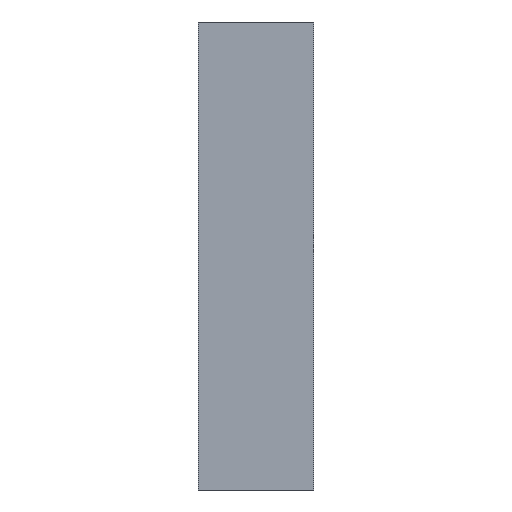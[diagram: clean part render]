
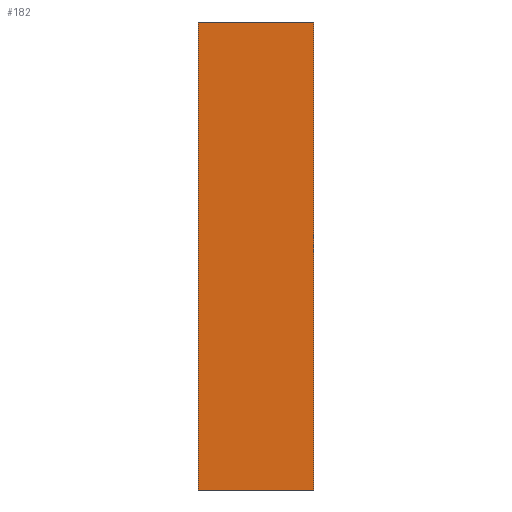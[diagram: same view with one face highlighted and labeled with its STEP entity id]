
A CAD part, front view. The second image highlights one B-rep face of the part: STEP entity #182.
In plain terms, the highlighted planar face has unit normal (0, -1, 0).
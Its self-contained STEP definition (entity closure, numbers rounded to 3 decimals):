
#7 = ORIENTED_EDGE ( 'NONE', *, *, #100, .F. ) ;
#8 = EDGE_CURVE ( 'NONE', #82, #162, #41, .T. ) ;
#12 = DIRECTION ( 'NONE',  ( 1., 0., 0. ) ) ;
#39 = EDGE_LOOP ( 'NONE', ( #132, #66, #192, #7 ) ) ;
#41 = LINE ( 'NONE', #196, #81 ) ;
#42 = CARTESIAN_POINT ( 'NONE',  ( 0., 0., 0. ) ) ;
#43 = CARTESIAN_POINT ( 'NONE',  ( 0., 0., -121. ) ) ;
#55 = LINE ( 'NONE', #164, #160 ) ;
#61 = CARTESIAN_POINT ( 'NONE',  ( 29.8, 0., -121. ) ) ;
#66 = ORIENTED_EDGE ( 'NONE', *, *, #157, .F. ) ;
#72 = CARTESIAN_POINT ( 'NONE',  ( 29.8, 0., 0. ) ) ;
#79 = CARTESIAN_POINT ( 'NONE',  ( 0., 0., -121. ) ) ;
#81 = VECTOR ( 'NONE', #104, 1000. ) ;
#82 = VERTEX_POINT ( 'NONE', #72 ) ;
#84 = VERTEX_POINT ( 'NONE', #150 ) ;
#96 = EDGE_CURVE ( 'NONE', #84, #149, #55, .T. ) ;
#99 = CARTESIAN_POINT ( 'NONE',  ( 0., 0., 0. ) ) ;
#100 = EDGE_CURVE ( 'NONE', #149, #82, #116, .T. ) ;
#104 = DIRECTION ( 'NONE',  ( 0., 0., -1. ) ) ;
#105 = DIRECTION ( 'NONE',  ( 0., -1., 0. ) ) ;
#116 = LINE ( 'NONE', #99, #127 ) ;
#127 = VECTOR ( 'NONE', #12, 1000. ) ;
#132 = ORIENTED_EDGE ( 'NONE', *, *, #96, .F. ) ;
#140 = PLANE ( 'NONE',  #175 ) ;
#149 = VERTEX_POINT ( 'NONE', #42 ) ;
#150 = CARTESIAN_POINT ( 'NONE',  ( 0., 0., -121. ) ) ;
#151 = VECTOR ( 'NONE', #185, 1000. ) ;
#157 = EDGE_CURVE ( 'NONE', #162, #84, #202, .T. ) ;
#160 = VECTOR ( 'NONE', #177, 1000. ) ;
#162 = VERTEX_POINT ( 'NONE', #61 ) ;
#164 = CARTESIAN_POINT ( 'NONE',  ( 0., 0., 0. ) ) ;
#169 = DIRECTION ( 'NONE',  ( 0., 0., -1. ) ) ;
#175 = AXIS2_PLACEMENT_3D ( 'NONE', #79, #105, #169 ) ;
#177 = DIRECTION ( 'NONE',  ( 0., 0., 1. ) ) ;
#182 = ADVANCED_FACE ( 'NONE', ( #199 ), #140, .T. ) ;
#185 = DIRECTION ( 'NONE',  ( -1., 0., 0. ) ) ;
#192 = ORIENTED_EDGE ( 'NONE', *, *, #8, .F. ) ;
#196 = CARTESIAN_POINT ( 'NONE',  ( 29.8, 0., 0. ) ) ;
#199 = FACE_OUTER_BOUND ( 'NONE', #39, .T. ) ;
#202 = LINE ( 'NONE', #43, #151 ) ;
